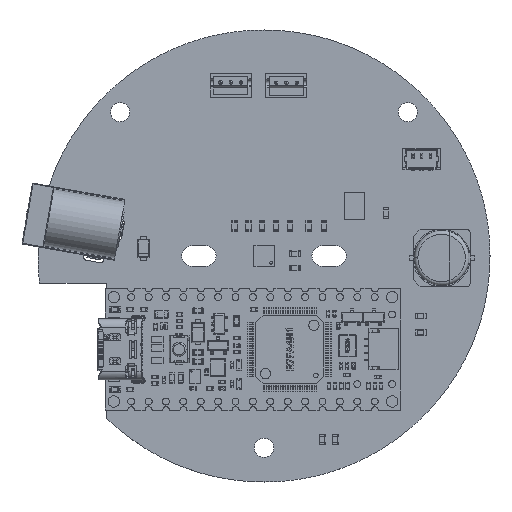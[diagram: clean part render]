
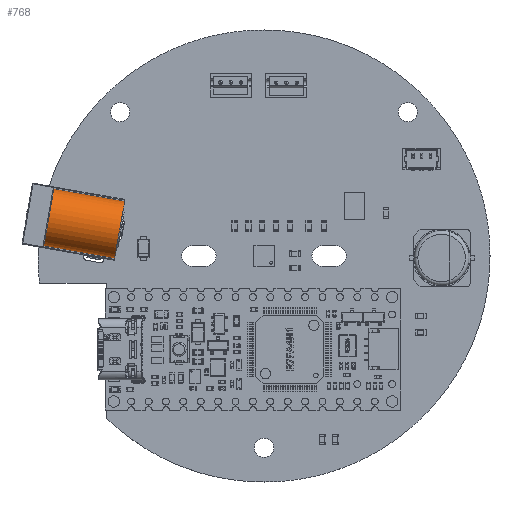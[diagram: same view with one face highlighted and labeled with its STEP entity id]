
A CAD part, top view. The second image highlights one B-rep face of the part: STEP entity #768.
In plain terms, the highlighted cylindrical face has radius 4.2 mm (diameter 8.4 mm), a partial arc.
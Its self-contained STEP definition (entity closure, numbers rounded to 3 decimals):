
#237 = VERTEX_POINT('',#238);
#238 = CARTESIAN_POINT('',(-10.5,0.,10.6));
#433 = EDGE_CURVE('',#237,#434,#436,.T.);
#434 = VERTEX_POINT('',#435);
#435 = CARTESIAN_POINT('',(-10.5,4.2,6.4));
#436 = CIRCLE('',#437,4.2);
#437 = AXIS2_PLACEMENT_3D('',#438,#439,#440);
#438 = CARTESIAN_POINT('',(-10.5,0.,6.4));
#439 = DIRECTION('',(-1.,0.,0.));
#440 = DIRECTION('',(0.,-1.,0.));
#474 = VERTEX_POINT('',#475);
#475 = CARTESIAN_POINT('',(-10.5,-4.2,6.4));
#481 = EDGE_CURVE('',#474,#237,#482,.T.);
#482 = CIRCLE('',#483,4.2);
#483 = AXIS2_PLACEMENT_3D('',#484,#485,#486);
#484 = CARTESIAN_POINT('',(-10.5,0.,6.4));
#485 = DIRECTION('',(-1.,0.,0.));
#486 = DIRECTION('',(0.,-1.,0.));
#742 = VERTEX_POINT('',#743);
#743 = CARTESIAN_POINT('',(0.,4.2,6.4));
#751 = EDGE_CURVE('',#742,#434,#752,.T.);
#752 = LINE('',#753,#754);
#753 = CARTESIAN_POINT('',(0.,4.2,6.4));
#754 = VECTOR('',#755,1.);
#755 = DIRECTION('',(-1.,0.,0.));
#768 = ADVANCED_FACE('',(#769),#789,.T.);
#769 = FACE_BOUND('',#770,.T.);
#770 = EDGE_LOOP('',(#771,#780,#781,#782,#783));
#771 = ORIENTED_EDGE('',*,*,#772,.T.);
#772 = EDGE_CURVE('',#773,#742,#775,.T.);
#773 = VERTEX_POINT('',#774);
#774 = CARTESIAN_POINT('',(0.,-4.2,6.4));
#775 = CIRCLE('',#776,4.2);
#776 = AXIS2_PLACEMENT_3D('',#777,#778,#779);
#777 = CARTESIAN_POINT('',(0.,0.,6.4));
#778 = DIRECTION('',(-1.,0.,0.));
#779 = DIRECTION('',(0.,-1.,0.));
#780 = ORIENTED_EDGE('',*,*,#751,.T.);
#781 = ORIENTED_EDGE('',*,*,#433,.F.);
#782 = ORIENTED_EDGE('',*,*,#481,.F.);
#783 = ORIENTED_EDGE('',*,*,#784,.F.);
#784 = EDGE_CURVE('',#773,#474,#785,.T.);
#785 = LINE('',#786,#787);
#786 = CARTESIAN_POINT('',(0.,-4.2,6.4));
#787 = VECTOR('',#788,1.);
#788 = DIRECTION('',(-1.,0.,0.));
#789 = CYLINDRICAL_SURFACE('',#790,4.2);
#790 = AXIS2_PLACEMENT_3D('',#791,#792,#793);
#791 = CARTESIAN_POINT('',(0.,0.,6.4));
#792 = DIRECTION('',(1.,0.,0.));
#793 = DIRECTION('',(0.,-1.,0.));
